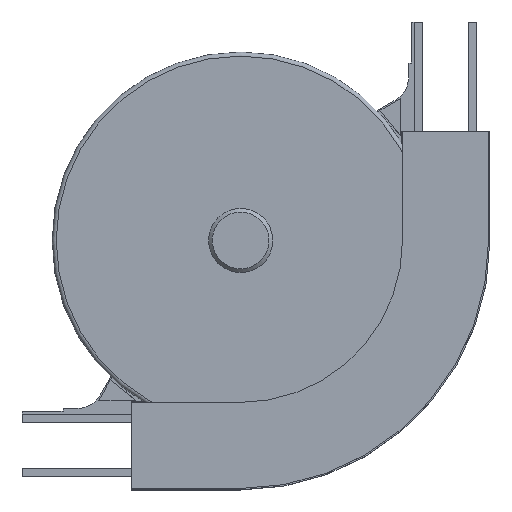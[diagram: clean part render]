
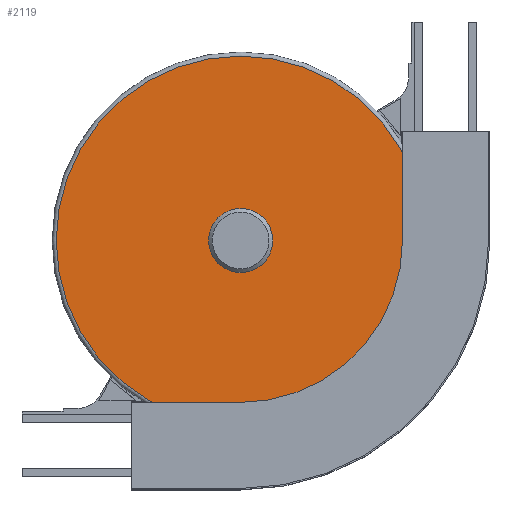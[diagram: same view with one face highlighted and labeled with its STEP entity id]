
A CAD part, top view. The second image highlights one B-rep face of the part: STEP entity #2119.
In plain terms, the highlighted planar face has unit normal (0, 0, 1).
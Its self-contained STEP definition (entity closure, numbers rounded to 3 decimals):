
#44=FACE_BOUND('',#347,.T.);
#83=CIRCLE('',#2281,21.);
#84=CIRCLE('',#2283,135.);
#218=FACE_OUTER_BOUND('',#346,.T.);
#346=EDGE_LOOP('',(#1799));
#347=EDGE_LOOP('',(#1800));
#1027=VERTEX_POINT('',#3369);
#1028=VERTEX_POINT('',#3373);
#1291=EDGE_CURVE('',#1027,#1027,#83,.T.);
#1293=EDGE_CURVE('',#1028,#1028,#84,.T.);
#1799=ORIENTED_EDGE('',*,*,#1293,.F.);
#1800=ORIENTED_EDGE('',*,*,#1291,.T.);
#2008=PLANE('',#2282);
#2119=ADVANCED_FACE('',(#218,#44),#2008,.T.);
#2281=AXIS2_PLACEMENT_3D('',#3370,#2754,#2755);
#2282=AXIS2_PLACEMENT_3D('',#3372,#2757,#2758);
#2283=AXIS2_PLACEMENT_3D('',#3374,#2759,#2760);
#2754=DIRECTION('center_axis',(0.,0.,-1.));
#2755=DIRECTION('ref_axis',(1.,0.,0.));
#2757=DIRECTION('center_axis',(0.,0.,1.));
#2758=DIRECTION('ref_axis',(1.,0.,0.));
#2759=DIRECTION('center_axis',(0.,0.,-1.));
#2760=DIRECTION('ref_axis',(1.,0.,0.));
#3369=CARTESIAN_POINT('',(94.849,135.151,33.5));
#3370=CARTESIAN_POINT('Origin',(80.,150.,33.5));
#3372=CARTESIAN_POINT('Origin',(-15.459,245.459,33.5));
#3373=CARTESIAN_POINT('',(215.,150.,33.5));
#3374=CARTESIAN_POINT('Origin',(80.,150.,33.5));
